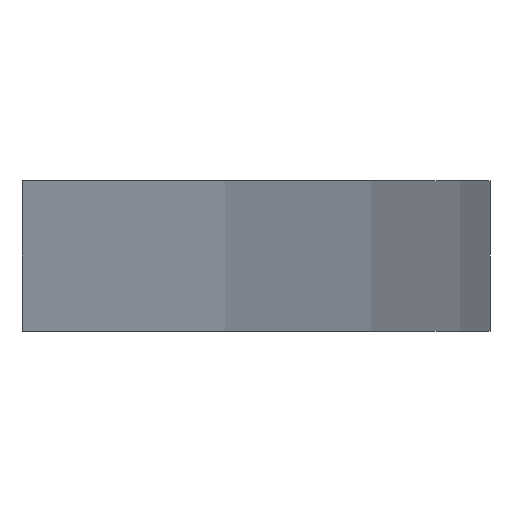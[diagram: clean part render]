
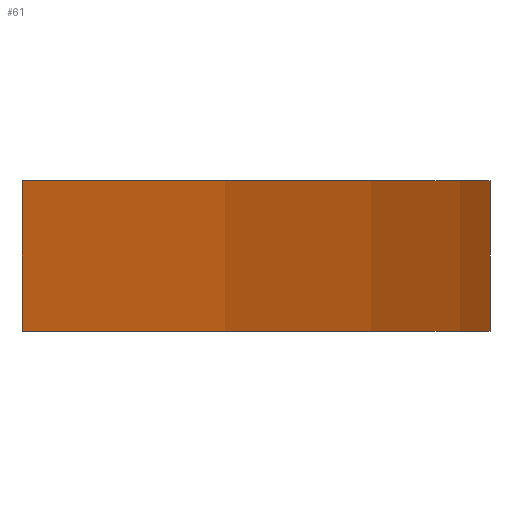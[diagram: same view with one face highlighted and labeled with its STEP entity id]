
A CAD part, left-side view. The second image highlights one B-rep face of the part: STEP entity #61.
In plain terms, the highlighted cylindrical face has radius 286 mm (diameter 572 mm), a partial arc.
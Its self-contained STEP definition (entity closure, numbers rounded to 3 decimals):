
#61 = ADVANCED_FACE( '', ( #114 ), #115, .T. );
#114 = FACE_OUTER_BOUND( '', #162, .T. );
#115 = CYLINDRICAL_SURFACE( '', #163, 286. );
#162 = EDGE_LOOP( '', ( #205, #206, #207, #208 ) );
#163 = AXIS2_PLACEMENT_3D( '', #209, #210, #211 );
#205 = ORIENTED_EDGE( '', *, *, #272, .T. );
#206 = ORIENTED_EDGE( '', *, *, #273, .F. );
#207 = ORIENTED_EDGE( '', *, *, #268, .F. );
#208 = ORIENTED_EDGE( '', *, *, #274, .T. );
#209 = CARTESIAN_POINT( '', ( 112., 255.001, 5. ) );
#210 = DIRECTION( '', ( 0., 0., 1. ) );
#211 = DIRECTION( '', ( -1., 0., 0. ) );
#268 = EDGE_CURVE( '', #295, #297, #298, .T. );
#272 = EDGE_CURVE( '', #303, #304, #305, .T. );
#273 = EDGE_CURVE( '', #297, #304, #306, .T. );
#274 = EDGE_CURVE( '', #295, #303, #307, .T. );
#295 = VERTEX_POINT( '', #333 );
#297 = VERTEX_POINT( '', #336 );
#298 = CIRCLE( '', #337, 286. );
#303 = VERTEX_POINT( '', #343 );
#304 = VERTEX_POINT( '', #344 );
#305 = CIRCLE( '', #345, 286. );
#306 = LINE( '', #346, #347 );
#307 = LINE( '', #348, #349 );
#333 = CARTESIAN_POINT( '', ( -17.5, 0., 5. ) );
#336 = CARTESIAN_POINT( '', ( 241.5, 0., 5. ) );
#337 = AXIS2_PLACEMENT_3D( '', #378, #379, #380 );
#343 = CARTESIAN_POINT( '', ( -17.5, 0., -5. ) );
#344 = CARTESIAN_POINT( '', ( 241.5, 0., -5. ) );
#345 = AXIS2_PLACEMENT_3D( '', #385, #386, #387 );
#346 = CARTESIAN_POINT( '', ( 241.5, 0., 5. ) );
#347 = VECTOR( '', #388, 1000. );
#348 = CARTESIAN_POINT( '', ( -17.5, 0., 5. ) );
#349 = VECTOR( '', #389, 1000. );
#378 = CARTESIAN_POINT( '', ( 112., 255.001, 5. ) );
#379 = DIRECTION( '', ( 0., 0., 1. ) );
#380 = DIRECTION( '', ( 1., 0., 0. ) );
#385 = CARTESIAN_POINT( '', ( 112., 255.001, -5. ) );
#386 = DIRECTION( '', ( 0., 0., 1. ) );
#387 = DIRECTION( '', ( 1., 0., 0. ) );
#388 = DIRECTION( '', ( 0., 0., -1. ) );
#389 = DIRECTION( '', ( 0., 0., -1. ) );
